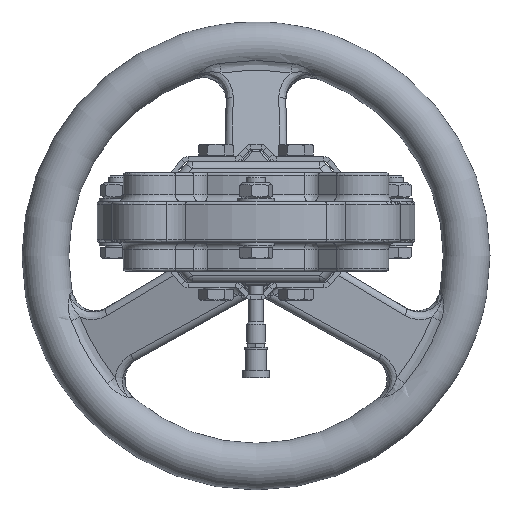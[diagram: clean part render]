
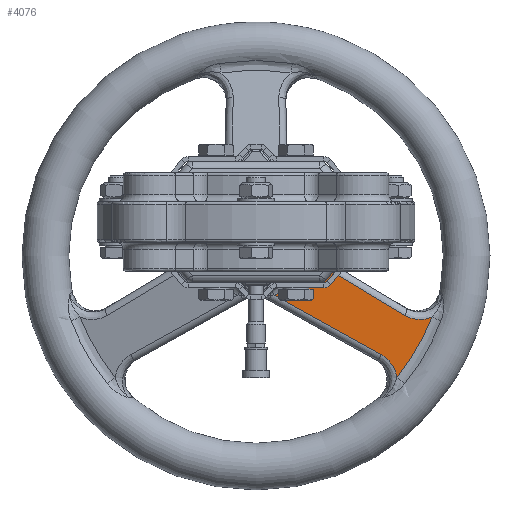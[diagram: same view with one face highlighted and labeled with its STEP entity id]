
A CAD part, front view. The second image highlights one B-rep face of the part: STEP entity #4076.
In plain terms, the highlighted planar face has unit normal (0.18, -0.978, -0.104).
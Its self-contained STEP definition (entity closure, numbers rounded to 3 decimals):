
#1353=ELLIPSE('',#41214,19.424,19.);
#4076=ADVANCED_FACE('',(#7560),#6547,.T.);
#6547=PLANE('',#41215);
#7560=FACE_OUTER_BOUND('',#9678,.T.);
#9678=EDGE_LOOP('',(#14674,#14675,#14676,#14677,#14678,#14679));
#12580=B_SPLINE_CURVE_WITH_KNOTS('',3,(#54313,#54314,#54315,#54316),
 .UNSPECIFIED.,.F.,.F.,(4,4),(0.,1.),.UNSPECIFIED.);
#12581=B_SPLINE_CURVE_WITH_KNOTS('',3,(#54318,#54319,#54320,#54321),
 .UNSPECIFIED.,.F.,.F.,(4,4),(0.,1.),.UNSPECIFIED.);
#12582=B_SPLINE_CURVE_WITH_KNOTS('',3,(#54323,#54324,#54325,#54326),
 .UNSPECIFIED.,.F.,.F.,(4,4),(0.,1.),.UNSPECIFIED.);
#14674=ORIENTED_EDGE('',*,*,#30027,.T.);
#14675=ORIENTED_EDGE('',*,*,#30028,.T.);
#14676=ORIENTED_EDGE('',*,*,#30029,.T.);
#14677=ORIENTED_EDGE('',*,*,#30030,.T.);
#14678=ORIENTED_EDGE('',*,*,#30031,.T.);
#14679=ORIENTED_EDGE('',*,*,#30032,.T.);
#26288=VERTEX_POINT('',#54307);
#26289=VERTEX_POINT('',#54308);
#26290=VERTEX_POINT('',#54310);
#26291=VERTEX_POINT('',#54312);
#26292=VERTEX_POINT('',#54317);
#26293=VERTEX_POINT('',#54322);
#30027=EDGE_CURVE('',#26288,#26289,#35798,.T.);
#30028=EDGE_CURVE('',#26289,#26290,#1353,.T.);
#30029=EDGE_CURVE('',#26290,#26291,#35799,.T.);
#30030=EDGE_CURVE('',#26291,#26292,#12580,.T.);
#30031=EDGE_CURVE('',#26292,#26293,#12581,.T.);
#30032=EDGE_CURVE('',#26293,#26288,#12582,.T.);
#35798=LINE('',#54306,#38384);
#35799=LINE('',#54311,#38385);
#38384=VECTOR('',#44596,1.);
#38385=VECTOR('',#44599,1.);
#41214=AXIS2_PLACEMENT_3D('',#54309,#44597,#44598);
#41215=AXIS2_PLACEMENT_3D('',#54327,#44600,#44601);
#44596=DIRECTION('',(-0.838,-0.208,0.504));
#44597=DIRECTION('',(-0.18,0.978,0.104));
#44598=DIRECTION('',(-0.847,-0.208,0.489));
#44599=DIRECTION('',(0.856,0.208,-0.474));
#44600=DIRECTION('',(0.18,-0.978,-0.104));
#44601=DIRECTION('',(0.847,0.208,-0.489));
#54306=CARTESIAN_POINT('',(19.349,271.539,-13.352));
#54307=CARTESIAN_POINT('',(63.413,282.466,-39.851));
#54308=CARTESIAN_POINT('',(18.408,271.305,-12.786));
#54309=CARTESIAN_POINT('',(-0.54,267.967,-14.188));
#54310=CARTESIAN_POINT('',(7.72,271.305,-31.299));
#54311=CARTESIAN_POINT('',(54.165,282.589,-57.02));
#54312=CARTESIAN_POINT('',(53.661,282.466,-56.741));
#54313=CARTESIAN_POINT('',(53.661,282.466,-56.741));
#54314=CARTESIAN_POINT('',(57.241,283.336,-58.724));
#54315=CARTESIAN_POINT('',(59.693,284.184,-62.454));
#54316=CARTESIAN_POINT('',(60.2,284.71,-66.529));
#54317=CARTESIAN_POINT('',(60.2,284.71,-66.529));
#54318=CARTESIAN_POINT('',(60.2,284.71,-66.529));
#54319=CARTESIAN_POINT('',(66.472,285.026,-58.635));
#54320=CARTESIAN_POINT('',(71.458,285.026,-49.999));
#54321=CARTESIAN_POINT('',(75.159,284.71,-40.62));
#54322=CARTESIAN_POINT('',(75.159,284.71,-40.62));
#54323=CARTESIAN_POINT('',(75.159,284.71,-40.62));
#54324=CARTESIAN_POINT('',(71.376,284.184,-42.219));
#54325=CARTESIAN_POINT('',(66.919,283.336,-41.96));
#54326=CARTESIAN_POINT('',(63.413,282.466,-39.851));
#54327=CARTESIAN_POINT('',(13.856,271.5,-22.5));
